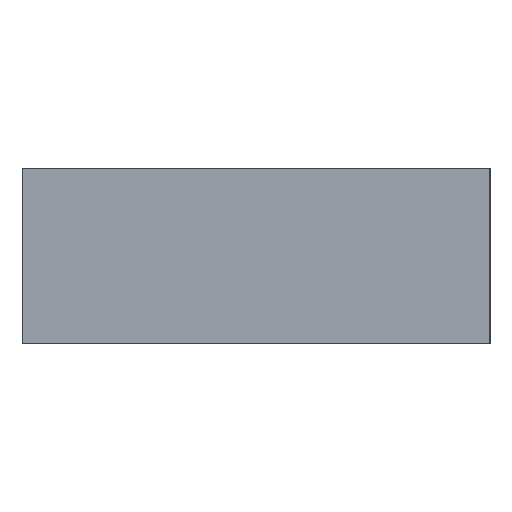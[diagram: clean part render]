
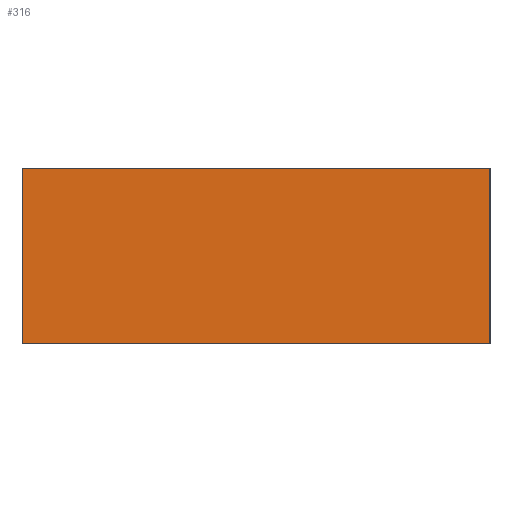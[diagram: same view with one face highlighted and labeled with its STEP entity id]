
A CAD part, left-side view. The second image highlights one B-rep face of the part: STEP entity #316.
In plain terms, the highlighted planar face has unit normal (-1, 0, 0).
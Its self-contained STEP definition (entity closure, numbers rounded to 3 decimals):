
#316=ADVANCED_FACE('',(#781),#783,.T.);
#781=FACE_BOUND('',#782,.T.);
#782=EDGE_LOOP('',(#1128,#1129,#1130,#1131));
#783=PLANE('',#784);
#784=AXIS2_PLACEMENT_3D('',#785,#786,#787);
#785=CARTESIAN_POINT('',(-1.6,-0.8,0.));
#786=DIRECTION('',(-1.,0.,0.));
#787=DIRECTION('',(0.,0.,1.));
#1128=ORIENTED_EDGE('',*,*,#1331,.T.);
#1129=ORIENTED_EDGE('',*,*,#1344,.T.);
#1130=ORIENTED_EDGE('',*,*,#1336,.F.);
#1131=ORIENTED_EDGE('',*,*,#1345,.F.);
#1331=EDGE_CURVE('',#1499,#1497,#1500,.T.);
#1336=EDGE_CURVE('',#1505,#1507,#1508,.T.);
#1344=EDGE_CURVE('',#1497,#1507,#1519,.T.);
#1345=EDGE_CURVE('',#1499,#1505,#1520,.T.);
#1497=VERTEX_POINT('',#1810);
#1499=VERTEX_POINT('',#1814);
#1500=LINE('',#1815,#1816);
#1505=VERTEX_POINT('',#1828);
#1507=VERTEX_POINT('',#1832);
#1508=LINE('',#1833,#1834);
#1519=LINE('',#1860,#1861);
#1520=LINE('',#1863,#1864);
#1810=CARTESIAN_POINT('',(-1.6,-0.8,0.6));
#1814=CARTESIAN_POINT('',(-1.6,-0.8,0.));
#1815=CARTESIAN_POINT('',(-1.6,-0.8,0.));
#1816=VECTOR('',#1817,1.);
#1817=DIRECTION('',(0.,0.,1.));
#1828=CARTESIAN_POINT('',(-1.6,0.8,0.));
#1832=CARTESIAN_POINT('',(-1.6,0.8,0.6));
#1833=CARTESIAN_POINT('',(-1.6,0.8,0.));
#1834=VECTOR('',#1835,1.);
#1835=DIRECTION('',(0.,0.,1.));
#1860=CARTESIAN_POINT('',(-1.6,-0.8,0.6));
#1861=VECTOR('',#1862,1.);
#1862=DIRECTION('',(0.,1.,0.));
#1863=CARTESIAN_POINT('',(-1.6,-0.8,0.));
#1864=VECTOR('',#1865,1.);
#1865=DIRECTION('',(0.,1.,0.));
